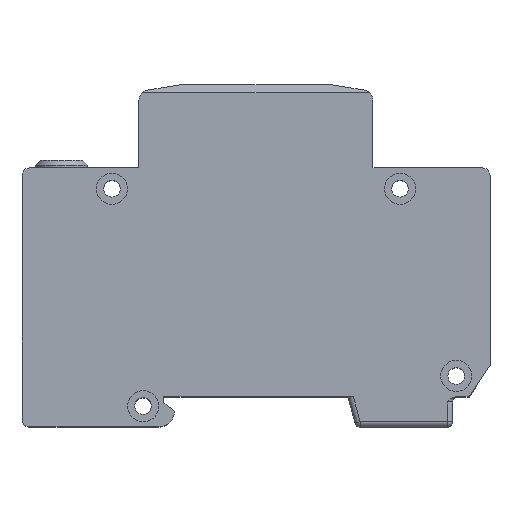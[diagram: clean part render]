
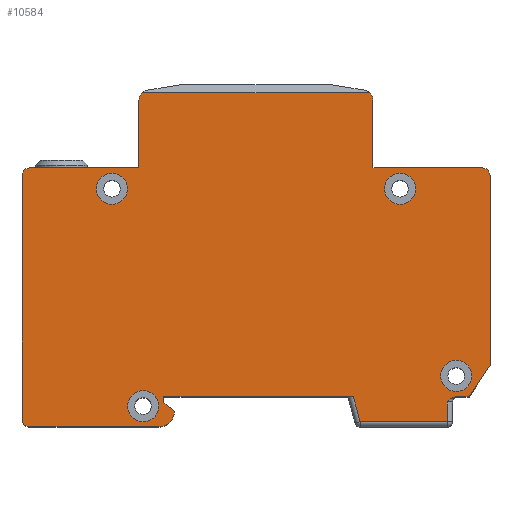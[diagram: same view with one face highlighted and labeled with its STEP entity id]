
A CAD part, top view. The second image highlights one B-rep face of the part: STEP entity #10584.
In plain terms, the highlighted planar face has unit normal (0, 0, 1).
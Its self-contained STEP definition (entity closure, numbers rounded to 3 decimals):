
#138=FACE_BOUND('',#1601,.T.);
#139=FACE_BOUND('',#1602,.T.);
#140=FACE_BOUND('',#1603,.T.);
#141=FACE_BOUND('',#1604,.T.);
#153=B_SPLINE_CURVE_WITH_KNOTS('',3,(#17322,#17323,#17324,#17325,#17326,
#17327),.UNSPECIFIED.,.F.,.F.,(4,2,4),(0.506,0.582,
0.7),.UNSPECIFIED.);
#450=CIRCLE('',#11335,1.5);
#452=CIRCLE('',#11366,1.5);
#454=CIRCLE('',#11372,3.);
#464=CIRCLE('',#11430,1.5);
#483=CIRCLE('',#11466,2.);
#484=CIRCLE('',#11467,2.);
#485=CIRCLE('',#11468,3.);
#486=CIRCLE('',#11469,3.);
#487=CIRCLE('',#11470,3.);
#488=CIRCLE('',#11471,3.);
#1019=FACE_OUTER_BOUND('',#1600,.T.);
#1600=EDGE_LOOP('',(#9238,#9239,#9240,#9241,#9242,#9243,#9244,#9245,#9246,
#9247,#9248,#9249,#9250,#9251,#9252,#9253,#9254,#9255,#9256,#9257,#9258,
#9259,#9260));
#1601=EDGE_LOOP('',(#9261));
#1602=EDGE_LOOP('',(#9262));
#1603=EDGE_LOOP('',(#9263));
#1604=EDGE_LOOP('',(#9264));
#2402=LINE('',#16311,#3614);
#2718=LINE('',#17000,#3930);
#2736=LINE('',#17037,#3948);
#2742=LINE('',#17053,#3954);
#2746=LINE('',#17061,#3958);
#2750=LINE('',#17073,#3962);
#2772=LINE('',#17132,#3984);
#2776=LINE('',#17141,#3988);
#2828=LINE('',#17241,#4040);
#2834=LINE('',#17259,#4046);
#2839=LINE('',#17308,#4051);
#2840=LINE('',#17312,#4052);
#2841=LINE('',#17315,#4053);
#2842=LINE('',#17317,#4054);
#2843=LINE('',#17319,#4055);
#2844=LINE('',#17321,#4056);
#3614=VECTOR('',#13263,10.);
#3930=VECTOR('',#13815,10.);
#3948=VECTOR('',#13855,10.);
#3954=VECTOR('',#13873,10.);
#3958=VECTOR('',#13881,10.);
#3962=VECTOR('',#13893,10.);
#3984=VECTOR('',#13957,10.);
#3988=VECTOR('',#13967,10.);
#4040=VECTOR('',#14063,10.);
#4046=VECTOR('',#14085,10.);
#4051=VECTOR('',#14152,10.);
#4052=VECTOR('',#14155,10.);
#4053=VECTOR('',#14158,10.);
#4054=VECTOR('',#14159,10.);
#4055=VECTOR('',#14160,10.);
#4056=VECTOR('',#14161,10.);
#4686=VERTEX_POINT('',#16308);
#4687=VERTEX_POINT('',#16310);
#4912=VERTEX_POINT('',#16890);
#4942=VERTEX_POINT('',#16998);
#4948=VERTEX_POINT('',#17027);
#4950=VERTEX_POINT('',#17035);
#4952=VERTEX_POINT('',#17043);
#4954=VERTEX_POINT('',#17051);
#4956=VERTEX_POINT('',#17059);
#4960=VERTEX_POINT('',#17071);
#4975=VERTEX_POINT('',#17129);
#4976=VERTEX_POINT('',#17131);
#4978=VERTEX_POINT('',#17139);
#5004=VERTEX_POINT('',#17239);
#5006=VERTEX_POINT('',#17247);
#5008=VERTEX_POINT('',#17257);
#5021=VERTEX_POINT('',#17307);
#5022=VERTEX_POINT('',#17309);
#5023=VERTEX_POINT('',#17311);
#5024=VERTEX_POINT('',#17313);
#5025=VERTEX_POINT('',#17316);
#5026=VERTEX_POINT('',#17318);
#5027=VERTEX_POINT('',#17320);
#5028=VERTEX_POINT('',#17328);
#5029=VERTEX_POINT('',#17330);
#5030=VERTEX_POINT('',#17332);
#5031=VERTEX_POINT('',#17334);
#5975=EDGE_CURVE('',#4687,#4686,#2402,.T.);
#6265=EDGE_CURVE('',#4912,#4686,#450,.T.);
#6321=EDGE_CURVE('',#4912,#4942,#2718,.T.);
#6337=EDGE_CURVE('',#4948,#4942,#452,.T.);
#6341=EDGE_CURVE('',#4948,#4950,#2736,.T.);
#6345=EDGE_CURVE('',#4950,#4952,#454,.T.);
#6349=EDGE_CURVE('',#4952,#4954,#2742,.T.);
#6353=EDGE_CURVE('',#4954,#4956,#2746,.T.);
#6359=EDGE_CURVE('',#4956,#4960,#2750,.T.);
#6388=EDGE_CURVE('',#4975,#4976,#2772,.T.);
#6393=EDGE_CURVE('',#4975,#4978,#2776,.T.);
#6445=EDGE_CURVE('',#4978,#5004,#2828,.T.);
#6449=EDGE_CURVE('',#5006,#5004,#464,.T.);
#6455=EDGE_CURVE('',#5006,#5008,#2834,.T.);
#6476=EDGE_CURVE('',#5008,#5021,#2839,.T.);
#6477=EDGE_CURVE('',#5022,#5021,#483,.T.);
#6478=EDGE_CURVE('',#5023,#5022,#2840,.T.);
#6479=EDGE_CURVE('',#5024,#5023,#484,.T.);
#6480=EDGE_CURVE('',#5024,#4687,#2841,.T.);
#6481=EDGE_CURVE('',#5025,#4960,#2842,.T.);
#6482=EDGE_CURVE('',#5026,#5025,#2843,.T.);
#6483=EDGE_CURVE('',#5027,#5026,#2844,.T.);
#6484=EDGE_CURVE('',#4976,#5027,#153,.T.);
#6485=EDGE_CURVE('',#5028,#5028,#485,.T.);
#6486=EDGE_CURVE('',#5029,#5029,#486,.T.);
#6487=EDGE_CURVE('',#5030,#5030,#487,.T.);
#6488=EDGE_CURVE('',#5031,#5031,#488,.T.);
#9238=ORIENTED_EDGE('',*,*,#6449,.F.);
#9239=ORIENTED_EDGE('',*,*,#6455,.T.);
#9240=ORIENTED_EDGE('',*,*,#6476,.T.);
#9241=ORIENTED_EDGE('',*,*,#6477,.F.);
#9242=ORIENTED_EDGE('',*,*,#6478,.F.);
#9243=ORIENTED_EDGE('',*,*,#6479,.F.);
#9244=ORIENTED_EDGE('',*,*,#6480,.T.);
#9245=ORIENTED_EDGE('',*,*,#5975,.T.);
#9246=ORIENTED_EDGE('',*,*,#6265,.F.);
#9247=ORIENTED_EDGE('',*,*,#6321,.T.);
#9248=ORIENTED_EDGE('',*,*,#6337,.F.);
#9249=ORIENTED_EDGE('',*,*,#6341,.T.);
#9250=ORIENTED_EDGE('',*,*,#6345,.T.);
#9251=ORIENTED_EDGE('',*,*,#6349,.T.);
#9252=ORIENTED_EDGE('',*,*,#6353,.T.);
#9253=ORIENTED_EDGE('',*,*,#6359,.T.);
#9254=ORIENTED_EDGE('',*,*,#6481,.F.);
#9255=ORIENTED_EDGE('',*,*,#6482,.F.);
#9256=ORIENTED_EDGE('',*,*,#6483,.F.);
#9257=ORIENTED_EDGE('',*,*,#6484,.F.);
#9258=ORIENTED_EDGE('',*,*,#6388,.F.);
#9259=ORIENTED_EDGE('',*,*,#6393,.T.);
#9260=ORIENTED_EDGE('',*,*,#6445,.T.);
#9261=ORIENTED_EDGE('',*,*,#6485,.T.);
#9262=ORIENTED_EDGE('',*,*,#6486,.T.);
#9263=ORIENTED_EDGE('',*,*,#6487,.T.);
#9264=ORIENTED_EDGE('',*,*,#6488,.T.);
#10067=PLANE('',#11465);
#10584=ADVANCED_FACE('',(#1019,#138,#139,#140,#141),#10067,.T.);
#11335=AXIS2_PLACEMENT_3D('',#16892,#13714,#13715);
#11366=AXIS2_PLACEMENT_3D('',#17029,#13846,#13847);
#11372=AXIS2_PLACEMENT_3D('',#17045,#13864,#13865);
#11430=AXIS2_PLACEMENT_3D('',#17249,#14072,#14073);
#11465=AXIS2_PLACEMENT_3D('',#17306,#14150,#14151);
#11466=AXIS2_PLACEMENT_3D('',#17310,#14153,#14154);
#11467=AXIS2_PLACEMENT_3D('',#17314,#14156,#14157);
#11468=AXIS2_PLACEMENT_3D('',#17329,#14162,#14163);
#11469=AXIS2_PLACEMENT_3D('',#17331,#14164,#14165);
#11470=AXIS2_PLACEMENT_3D('',#17333,#14166,#14167);
#11471=AXIS2_PLACEMENT_3D('',#17335,#14168,#14169);
#13263=DIRECTION('',(-1.,0.,0.));
#13714=DIRECTION('center_axis',(0.,0.,-1.));
#13715=DIRECTION('ref_axis',(-0.707,0.707,0.));
#13815=DIRECTION('',(0.,-1.,0.));
#13846=DIRECTION('center_axis',(0.,0.,-1.));
#13847=DIRECTION('ref_axis',(-0.707,-0.707,0.));
#13855=DIRECTION('',(1.,0.,0.));
#13864=DIRECTION('center_axis',(0.,0.,1.));
#13865=DIRECTION('ref_axis',(0.,-1.,0.));
#13873=DIRECTION('',(-0.781,0.625,0.));
#13881=DIRECTION('',(0.,1.,0.));
#13893=DIRECTION('',(1.,0.,0.));
#13957=DIRECTION('',(-1.,0.,0.));
#13967=DIRECTION('',(0.555,0.832,0.));
#14063=DIRECTION('',(0.,1.,0.));
#14072=DIRECTION('center_axis',(0.,0.,-1.));
#14073=DIRECTION('ref_axis',(0.707,0.707,0.));
#14085=DIRECTION('',(-1.,0.,0.));
#14150=DIRECTION('center_axis',(0.,0.,1.));
#14151=DIRECTION('ref_axis',(1.,0.,0.));
#14152=DIRECTION('',(0.,1.,0.));
#14153=DIRECTION('center_axis',(0.,0.,-1.));
#14154=DIRECTION('ref_axis',(0.762,0.648,0.));
#14155=DIRECTION('',(1.,0.,0.));
#14156=DIRECTION('center_axis',(0.,0.,-1.));
#14157=DIRECTION('ref_axis',(-0.762,0.648,0.));
#14158=DIRECTION('',(0.,-1.,0.));
#14159=DIRECTION('',(-0.259,0.966,0.));
#14160=DIRECTION('',(-1.,0.,0.));
#14161=DIRECTION('',(0.,-1.,0.));
#14162=DIRECTION('center_axis',(0.,0.,-1.));
#14163=DIRECTION('ref_axis',(1.,0.,0.));
#14164=DIRECTION('center_axis',(0.,0.,-1.));
#14165=DIRECTION('ref_axis',(1.,0.,0.));
#14166=DIRECTION('center_axis',(0.,0.,-1.));
#14167=DIRECTION('ref_axis',(1.,0.,0.));
#14168=DIRECTION('center_axis',(0.,0.,-1.));
#14169=DIRECTION('ref_axis',(1.,0.,0.));
#16308=CARTESIAN_POINT('',(-43.5,14.,17.5));
#16310=CARTESIAN_POINT('',(-22.5,14.,17.5));
#16311=CARTESIAN_POINT('',(-22.5,14.,17.5));
#16890=CARTESIAN_POINT('',(-45.,12.5,17.5));
#16892=CARTESIAN_POINT('Origin',(-43.5,12.5,17.5));
#16998=CARTESIAN_POINT('',(-45.,-34.3,17.5));
#17000=CARTESIAN_POINT('',(-45.,14.,17.5));
#17027=CARTESIAN_POINT('',(-43.5,-35.8,17.5));
#17029=CARTESIAN_POINT('Origin',(-43.5,-34.3,17.5));
#17035=CARTESIAN_POINT('',(-18.7,-35.8,17.5));
#17037=CARTESIAN_POINT('',(-45.,-35.8,17.5));
#17043=CARTESIAN_POINT('',(-15.7,-32.8,17.5));
#17045=CARTESIAN_POINT('Origin',(-18.7,-32.8,17.5));
#17051=CARTESIAN_POINT('',(-17.7,-31.2,17.5));
#17053=CARTESIAN_POINT('',(-15.7,-32.8,17.5));
#17059=CARTESIAN_POINT('',(-17.7,-30.,17.5));
#17061=CARTESIAN_POINT('',(-17.7,-31.2,17.5));
#17071=CARTESIAN_POINT('',(18.735,-30.,17.5));
#17073=CARTESIAN_POINT('',(-17.7,-30.,17.5));
#17129=CARTESIAN_POINT('',(41.,-30.,17.5));
#17131=CARTESIAN_POINT('',(38.532,-30.,17.5));
#17132=CARTESIAN_POINT('',(18.592,-30.,17.5));
#17139=CARTESIAN_POINT('',(45.,-24.,17.5));
#17141=CARTESIAN_POINT('',(41.,-30.,17.5));
#17239=CARTESIAN_POINT('',(45.,12.5,17.5));
#17241=CARTESIAN_POINT('',(45.,-24.,17.5));
#17247=CARTESIAN_POINT('',(43.5,14.,17.5));
#17249=CARTESIAN_POINT('Origin',(43.5,12.5,17.5));
#17257=CARTESIAN_POINT('',(22.5,14.,17.5));
#17259=CARTESIAN_POINT('',(45.,14.,17.5));
#17306=CARTESIAN_POINT('Origin',(-0.615,-5.122,17.5));
#17307=CARTESIAN_POINT('',(22.5,26.999,17.5));
#17308=CARTESIAN_POINT('',(22.5,14.,17.5));
#17309=CARTESIAN_POINT('',(21.821,28.5,17.5));
#17310=CARTESIAN_POINT('Origin',(20.5,26.999,17.5));
#17311=CARTESIAN_POINT('',(-21.821,28.5,17.5));
#17312=CARTESIAN_POINT('',(10.942,28.5,17.5));
#17313=CARTESIAN_POINT('',(-22.5,26.999,17.5));
#17314=CARTESIAN_POINT('Origin',(-20.5,26.999,17.5));
#17315=CARTESIAN_POINT('',(-22.5,30.,17.5));
#17316=CARTESIAN_POINT('',(20.021,-34.8,17.5));
#17317=CARTESIAN_POINT('',(14.943,-15.846,17.5));
#17318=CARTESIAN_POINT('',(36.8,-34.8,17.5));
#17319=CARTESIAN_POINT('',(9.319,-34.8,17.5));
#17320=CARTESIAN_POINT('',(36.8,-31.,17.5));
#17321=CARTESIAN_POINT('',(36.8,-20.461,17.5));
#17322=CARTESIAN_POINT('Ctrl Pts',(38.532,-30.,17.5));
#17323=CARTESIAN_POINT('Ctrl Pts',(38.277,-30.,17.5));
#17324=CARTESIAN_POINT('Ctrl Pts',(37.985,-30.09,17.5));
#17325=CARTESIAN_POINT('Ctrl Pts',(37.415,-30.396,17.5));
#17326=CARTESIAN_POINT('Ctrl Pts',(37.077,-30.723,17.5));
#17327=CARTESIAN_POINT('Ctrl Pts',(36.8,-31.,17.5));
#17328=CARTESIAN_POINT('',(35.5,-26.,17.5));
#17329=CARTESIAN_POINT('Origin',(38.5,-26.,17.5));
#17330=CARTESIAN_POINT('',(24.7,10.,17.5));
#17331=CARTESIAN_POINT('Origin',(27.7,10.,17.5));
#17332=CARTESIAN_POINT('',(-30.7,10.,17.5));
#17333=CARTESIAN_POINT('Origin',(-27.7,10.,17.5));
#17334=CARTESIAN_POINT('',(-24.7,-31.8,17.5));
#17335=CARTESIAN_POINT('Origin',(-21.7,-31.8,17.5));
